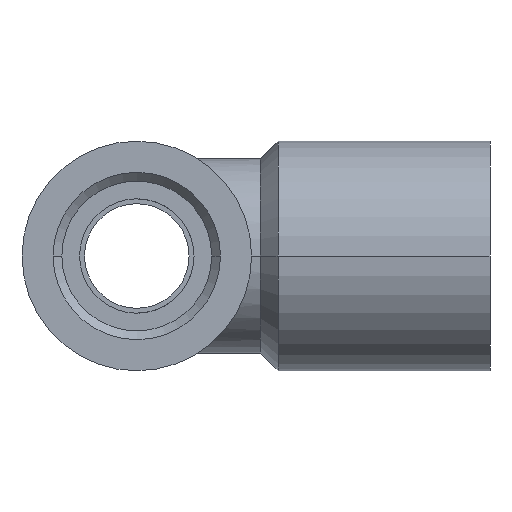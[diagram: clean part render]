
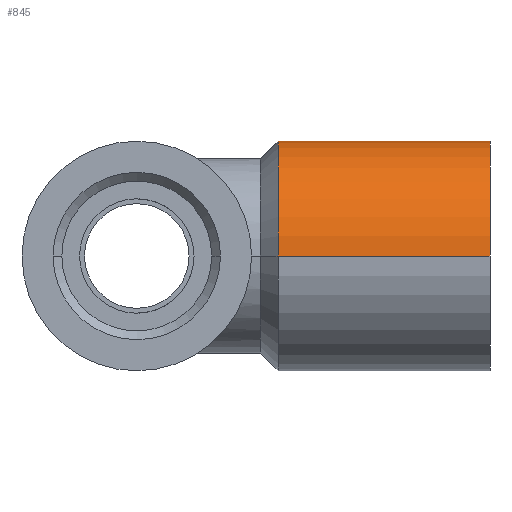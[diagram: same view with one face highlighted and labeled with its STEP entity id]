
A CAD part, left-side view. The second image highlights one B-rep face of the part: STEP entity #845.
In plain terms, the highlighted cylindrical face has radius 6.5 mm (diameter 13 mm), a partial arc.
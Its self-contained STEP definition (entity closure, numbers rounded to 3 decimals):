
#204=CARTESIAN_POINT('',(20.5,-8.,0.));
#205=DIRECTION('',(0.,1.,0.));
#206=DIRECTION('',(-1.,0.,0.));
#207=AXIS2_PLACEMENT_3D('',#204,#205,#206);
#209=DIRECTION('',(0.,1.,0.));
#210=VECTOR('',#209,12.);
#211=CARTESIAN_POINT('',(27.,-20.,0.));
#212=LINE('',#211,#210);
#213=CARTESIAN_POINT('',(20.5,-20.,0.));
#214=DIRECTION('',(0.,-1.,0.));
#215=DIRECTION('',(1.,0.,0.));
#216=AXIS2_PLACEMENT_3D('',#213,#214,#215);
#218=DIRECTION('',(0.,1.,0.));
#219=VECTOR('',#218,12.);
#220=CARTESIAN_POINT('',(14.,-20.,0.));
#221=LINE('',#220,#219);
#499=CARTESIAN_POINT('',(27.,-20.,0.));
#500=CARTESIAN_POINT('',(14.,-20.,0.));
#501=VERTEX_POINT('',#499);
#502=VERTEX_POINT('',#500);
#551=CARTESIAN_POINT('',(27.,-8.,0.));
#552=CARTESIAN_POINT('',(14.,-8.,0.));
#553=VERTEX_POINT('',#551);
#554=VERTEX_POINT('',#552);
#831=CARTESIAN_POINT('',(20.5,-21.,0.));
#832=DIRECTION('',(0.,1.,0.));
#833=DIRECTION('',(1.,0.,0.));
#834=AXIS2_PLACEMENT_3D('',#831,#832,#833);
#835=CYLINDRICAL_SURFACE('',#834,6.5);
#836=ORIENTED_EDGE('',*,*,#821,.T.);
#838=ORIENTED_EDGE('',*,*,#837,.F.);
#840=ORIENTED_EDGE('',*,*,#839,.T.);
#842=ORIENTED_EDGE('',*,*,#841,.T.);
#843=EDGE_LOOP('',(#836,#838,#840,#842));
#844=FACE_OUTER_BOUND('',#843,.F.);
#845=ADVANCED_FACE('',(#844),#835,.T.);
#208=CIRCLE('',#207,6.5);
#217=CIRCLE('',#216,6.5);
#821=EDGE_CURVE('',#554,#553,#208,.T.);
#837=EDGE_CURVE('',#501,#553,#212,.T.);
#839=EDGE_CURVE('',#501,#502,#217,.T.);
#841=EDGE_CURVE('',#502,#554,#221,.T.);
